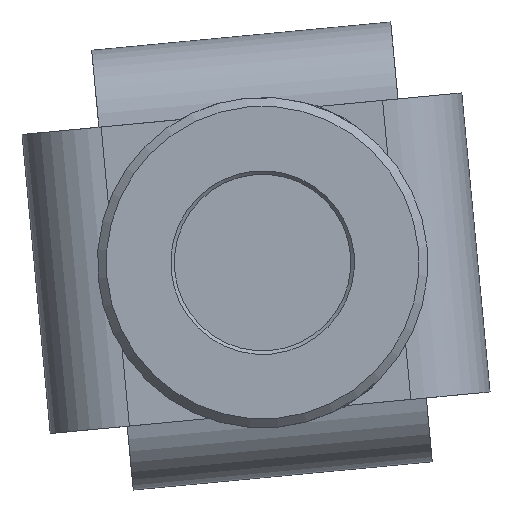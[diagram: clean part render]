
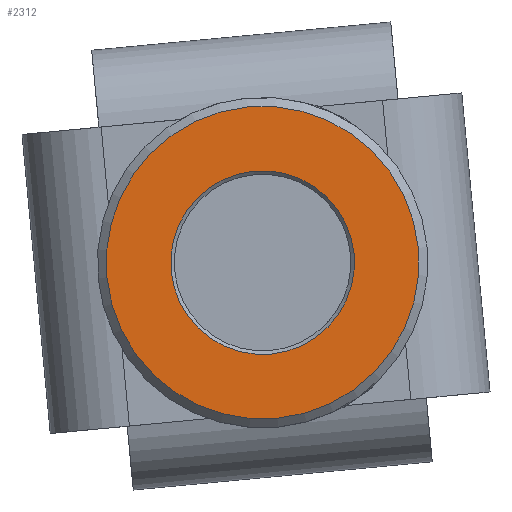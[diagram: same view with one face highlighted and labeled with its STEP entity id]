
A CAD part, front view. The second image highlights one B-rep face of the part: STEP entity #2312.
In plain terms, the highlighted planar face has unit normal (0, -1, 0).
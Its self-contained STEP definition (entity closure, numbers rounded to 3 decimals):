
#414=FACE_BOUND('',#699,.T.);
#525=FACE_OUTER_BOUND('',#698,.T.);
#698=EDGE_LOOP('',(#1682));
#699=EDGE_LOOP('',(#1683));
#884=CIRCLE('',#2519,5.2);
#886=CIRCLE('',#2523,8.85);
#1039=VERTEX_POINT('',#3747);
#1041=VERTEX_POINT('',#3753);
#1278=EDGE_CURVE('',#1039,#1039,#884,.T.);
#1280=EDGE_CURVE('',#1041,#1041,#886,.T.);
#1682=ORIENTED_EDGE('',*,*,#1280,.F.);
#1683=ORIENTED_EDGE('',*,*,#1278,.F.);
#2044=PLANE('',#2522);
#2312=ADVANCED_FACE('',(#525,#414),#2044,.F.);
#2519=AXIS2_PLACEMENT_3D('',#3748,#2983,#2984);
#2522=AXIS2_PLACEMENT_3D('',#3752,#2989,#2990);
#2523=AXIS2_PLACEMENT_3D('',#3754,#2991,#2992);
#2983=DIRECTION('center_axis',(0.,-1.,0.));
#2984=DIRECTION('ref_axis',(-0.909,0.,0.416));
#2989=DIRECTION('center_axis',(0.,1.,0.));
#2990=DIRECTION('ref_axis',(-0.909,0.,0.416));
#2991=DIRECTION('center_axis',(0.,1.,0.));
#2992=DIRECTION('ref_axis',(-0.909,0.,0.416));
#3747=CARTESIAN_POINT('',(-27.252,33.893,-5.245));
#3748=CARTESIAN_POINT('Origin',(-31.98,33.893,-3.08));
#3752=CARTESIAN_POINT('Origin',(-31.98,33.893,-3.08));
#3753=CARTESIAN_POINT('',(-23.933,33.893,-6.764));
#3754=CARTESIAN_POINT('Origin',(-31.98,33.893,-3.08));
